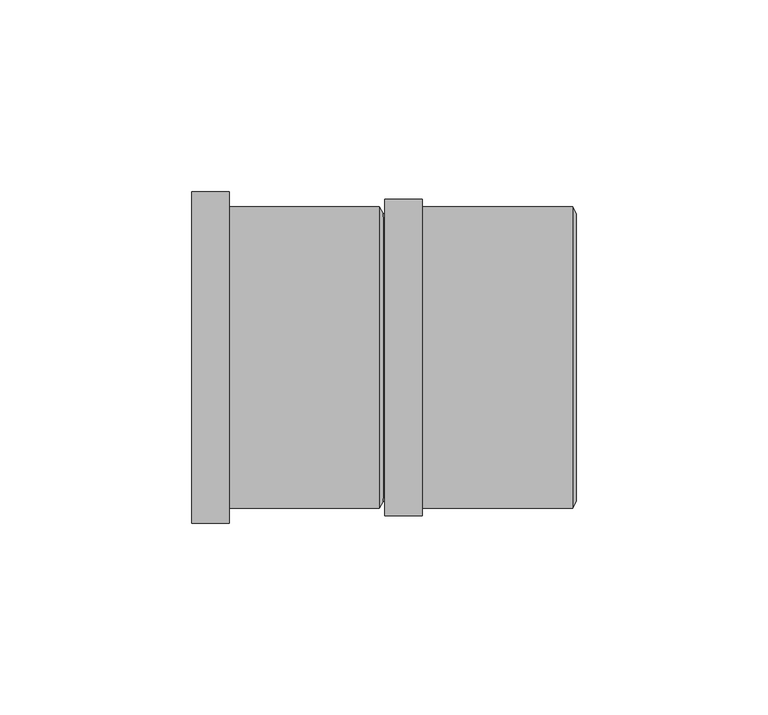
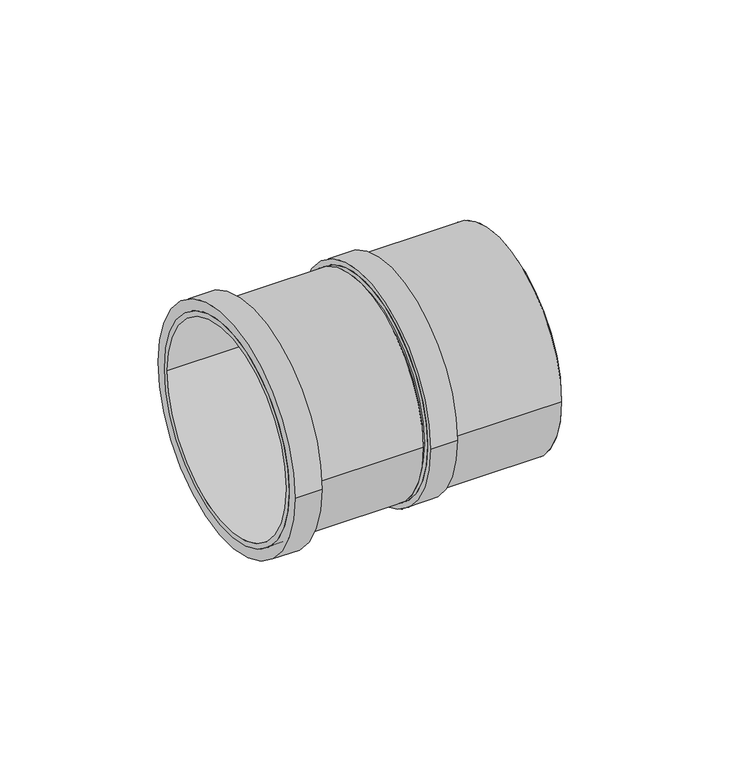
"""IFC4 building model written with IfcOpenShell, lengths in millimetres: pipe fitting geometry, Superdrain HTAM-Single socket : Superdrain HTAM-Single socket."""

import ifcopenshell
import ifcopenshell.guid

model = None  # the IFC model being written
_history = None  # IfcOwnerHistory: only IFC2X3 demands one
_inside = {}  # id of a spatial element -> (the spatial element, [elements in it])
_under = {}  # id of a project, library or spatial element -> (it, [spatial elements below it])
_declared = {}  # id of a project -> (the project, [libraries it declares])
_typed = {}  # id of a type object -> (the type object, [elements of that type])
_made_of = {}  # id of a material, layer set ... -> (it, [elements and type objects made of it])


def new_model(schema):
    """Start an empty IFC model of exactly this schema.

    Asked for "IFC4X3", IfcOpenShell would pick the latest addendum, in which some entities
    have other attributes; the version numbers below select the first issue.
    IFC2X3 requires an IfcOwnerHistory on every rooted entity: one is made here for all.
    """
    global model, _history
    if schema == "IFC4X3":
        model = ifcopenshell.file(schema_version=(4, 3, 0, 0))
    else:
        model = ifcopenshell.file(schema=schema)
    _inside.clear()
    _under.clear()
    _declared.clear()
    _typed.clear()
    _made_of.clear()
    _history = None
    if model.schema == "IFC2X3":
        org = make("IfcOrganization", Name="unknown")
        user = make(
            "IfcPersonAndOrganization",
            ThePerson=make("IfcPerson", FamilyName="unknown"),
            TheOrganization=org,
        )
        app = make(
            "IfcApplication",
            ApplicationDeveloper=org,
            Version="unknown",
            ApplicationFullName="unknown",
            ApplicationIdentifier="unknown",
        )
        _history = make(
            "IfcOwnerHistory",
            OwningUser=user,
            OwningApplication=app,
            ChangeAction="ADDED",
            CreationDate=0,
        )
    return model


def make(cls, **values):
    """One entity of the class cls with the attributes given. An attribute that is None is left unset."""
    return model.create_entity(
        cls, **{name: value for name, value in values.items() if value is not None}
    )


def rooted(cls, **values):
    """An entity with a GlobalId (a new one), such as an element, a storey or a relation."""
    return make(cls, GlobalId=ifcopenshell.guid.new(), OwnerHistory=_history, **values)


def si_unit(unit_type, name, prefix=None):
    """IfcSIUnit, for example si_unit("LENGTHUNIT", "METRE", prefix="MILLI")."""
    return make("IfcSIUnit", UnitType=unit_type, Prefix=prefix, Name=name)


def assignment(units):
    """IfcUnitAssignment: the units of a project."""
    return None if units is None else make("IfcUnitAssignment", Units=units)


def point(xyz):
    """IfcCartesianPoint."""
    return None if xyz is None else make("IfcCartesianPoint", Coordinates=xyz)


def direction(xyz):
    """IfcDirection."""
    return None if xyz is None else make("IfcDirection", DirectionRatios=xyz)


def frame(location, z_axis=None, x_axis=None):
    """IfcAxis2Placement3D, a coordinate frame: its origin and axes. An axis left out is left unset."""
    return make(
        "IfcAxis2Placement3D",
        Location=point(location),
        Axis=direction(z_axis),
        RefDirection=direction(x_axis),
    )


def frame_2d(location, x_axis=None):
    """IfcAxis2Placement2D, a coordinate frame in the plane: its origin and x axis."""
    return make(
        "IfcAxis2Placement2D", Location=point(location), RefDirection=direction(x_axis)
    )


def origin():
    """The frame at (0, 0, 0) with its axes left unset."""
    return frame((0.0, 0.0, 0.0))


def origin_2d():
    """The frame at (0, 0) in the plane with its x axis left unset."""
    return frame_2d((0.0, 0.0))


def place(relative_to, where):
    """IfcLocalPlacement: puts the frame where relative to a parent placement (None: the world)."""
    return make(
        "IfcLocalPlacement", PlacementRelTo=relative_to, RelativePlacement=where
    )


def context(
    kind, dimensions, precision=None, world=None, true_north=None, identifier=None
):
    """IfcGeometricRepresentationContext, for example the 3D "Model" context."""
    return make(
        "IfcGeometricRepresentationContext",
        ContextIdentifier=identifier,
        ContextType=kind,
        CoordinateSpaceDimension=dimensions,
        Precision=precision,
        WorldCoordinateSystem=world,
        TrueNorth=true_north,
    )


def project(units=None, contexts=None):
    """IfcProject with its units and contexts."""
    return rooted(
        "IfcProject",
        Name="project",
        RepresentationContexts=contexts,
        UnitsInContext=assignment(units),
    )


def spatial(cls, under=None, at=None, **own):
    """A site, building, storey or space (cls), placed at a placement, below another one or the project."""
    s = rooted(cls, ObjectPlacement=at, **own)
    if under is not None:
        _under.setdefault(under.id(), (under, []))[1].append(s)
    return s


def polyline(points):
    """IfcPolyline through the points."""
    return make("IfcPolyline", Points=[point(p) for p in points])


def circle_curve(where, radius):
    """IfcCircle in the frame where."""
    return make("IfcCircle", Position=where, Radius=radius)


def trimmed(basis, trim1, trim2, sense, master):
    """IfcTrimmedCurve: the piece of a basis curve between two trims."""
    return make(
        "IfcTrimmedCurve",
        BasisCurve=basis,
        Trim1=trim1,
        Trim2=trim2,
        SenseAgreement=sense,
        MasterRepresentation=master,
    )


def segment(curve, same_sense, transition):
    """IfcCompositeCurveSegment."""
    return make(
        "IfcCompositeCurveSegment",
        Transition=transition,
        SameSense=same_sense,
        ParentCurve=curve,
    )


def composite_curve(segments, self_intersect=None):
    """IfcCompositeCurve: segments joined end to end."""
    return make("IfcCompositeCurve", Segments=segments, SelfIntersect=self_intersect)


def outline(outer, holes=None, kind="AREA"):
    """IfcArbitraryClosedProfileDef: a profile drawn as a closed curve; with holes, ...WithVoids."""
    if holes is None:
        return make("IfcArbitraryClosedProfileDef", ProfileType=kind, OuterCurve=outer)
    return make(
        "IfcArbitraryProfileDefWithVoids",
        ProfileType=kind,
        OuterCurve=outer,
        InnerCurves=holes,
    )


def extrude(swept, where, along, depth):
    """IfcExtrudedAreaSolid: the profile swept, set in the frame where, extruded along a direction by depth."""
    return make(
        "IfcExtrudedAreaSolid",
        SweptArea=swept,
        Position=where,
        ExtrudedDirection=direction(along),
        Depth=depth,
    )


def shape(context_of_items, identifier, shape_type, items):
    """IfcShapeRepresentation: the items that make up one representation, for example the "Body"."""
    return make(
        "IfcShapeRepresentation",
        ContextOfItems=context_of_items,
        RepresentationIdentifier=identifier,
        RepresentationType=shape_type,
        Items=items,
    )


def source(mapping_origin, context_of_items, identifier, shape_type, items):
    """IfcRepresentationMap: a shape defined once, which mapped items show again and again."""
    return make(
        "IfcRepresentationMap",
        MappingOrigin=mapping_origin,
        MappedRepresentation=shape(context_of_items, identifier, shape_type, items),
    )


def transform(
    local_origin,
    x_axis=None,
    y_axis=None,
    z_axis=None,
    scale=None,
    scale2=None,
    scale3=None,
    uniform=True,
):
    """IfcCartesianTransformationOperator3D, or its non-uniform kind. x_axis, y_axis, z_axis: its Axis1, 2, 3."""
    if uniform:
        return make(
            "IfcCartesianTransformationOperator3D",
            Axis1=direction(x_axis),
            Axis2=direction(y_axis),
            LocalOrigin=point(local_origin),
            Scale=scale,
            Axis3=direction(z_axis),
        )
    return make(
        "IfcCartesianTransformationOperator3DnonUniform",
        Axis1=direction(x_axis),
        Axis2=direction(y_axis),
        LocalOrigin=point(local_origin),
        Scale=scale,
        Axis3=direction(z_axis),
        Scale2=scale2,
        Scale3=scale3,
    )


def mapped(mapping_source, mapping_target):
    """IfcMappedItem: shows the shape of a source again, moved by a transform."""
    return make(
        "IfcMappedItem", MappingSource=mapping_source, MappingTarget=mapping_target
    )


def made_of(thing, what):
    """Note that an element or type object is made of a material, layer set ...; save() writes the relation."""
    if what is not None:
        _made_of.setdefault(what.id(), (what, []))[1].append(thing)
    return thing


def element(
    cls,
    number,
    at=None,
    inside=None,
    cuts=None,
    type_object=None,
    material=None,
    context=None,
    identifier="Body",
    shape_type=None,
    held_by="IfcProductDefinitionShape",
    body=None,
    shapes=None,
    **own,
):
    """One element of the class cls, such as IfcWall. Its Tag is "e" and its number.

    at: its placement. inside: the storey or other place that contains it. cuts: it is an
    opening in that element (IfcRelVoidsElement). A single representation is given by context,
    identifier, shape_type and body (its items); several are given by shapes. held_by: the class
    of the entity that holds the representations. save() writes the other relations.
    """
    e = rooted(cls, Tag="e%d" % number, ObjectPlacement=at, **own)
    if body is not None:
        shapes = [shape(context, identifier, shape_type, body)]
    if shapes is not None:
        e.Representation = make(held_by, Representations=shapes)
    if inside is not None:
        _inside.setdefault(inside.id(), (inside, []))[1].append(e)
    if cuts is not None:
        rooted(
            "IfcRelVoidsElement", RelatingBuildingElement=cuts, RelatedOpeningElement=e
        )
    if type_object is not None:
        _typed.setdefault(type_object.id(), (type_object, []))[1].append(e)
    return made_of(e, material)


def aggregate(whole, parts):
    """IfcRelAggregates: a whole, such as a stair, and the parts it consists of."""
    return rooted("IfcRelAggregates", RelatingObject=whole, RelatedObjects=parts)


def save(model, path):
    """Write the relations noted so far, then the file.

    IfcRelAggregates (storeys below a building ...), IfcRelContainedInSpatialStructure (elements
    in a storey), IfcRelDefinesByType, IfcRelAssociatesMaterial and IfcRelDeclares: one each for
    every whole, place, type object, material and project.
    """
    for whole, parts in _under.values():
        aggregate(whole, parts)
    for where, things in _inside.values():
        rooted(
            "IfcRelContainedInSpatialStructure",
            RelatedElements=things,
            RelatingStructure=where,
        )
    for kind, things in _typed.values():
        rooted("IfcRelDefinesByType", RelatedObjects=things, RelatingType=kind)
    for what, things in _made_of.values():
        rooted("IfcRelAssociatesMaterial", RelatedObjects=things, RelatingMaterial=what)
    for by, libraries in _declared.values():
        rooted("IfcRelDeclares", RelatingContext=by, RelatedDefinitions=libraries)
    model.write(path)


def plane_surface(at):
    """IfcPlane: the flat surface through the origin of the frame at, square to its z axis."""
    return make("IfcPlane", Position=at)


def revolved_surface(curve, axis_point, axis_direction):
    """IfcSurfaceOfRevolution: the curve turned about the line through axis_point along axis_direction."""
    return make(
        "IfcSurfaceOfRevolution",
        SweptCurve=make("IfcArbitraryOpenProfileDef", ProfileType="CURVE", Curve=curve),
        AxisPosition=make("IfcAxis1Placement", Location=point(axis_point), Axis=direction(axis_direction)),
    )


def advanced_brep(points, edges, surfaces, faces):
    """IfcAdvancedBrep: a solid bounded by faces that lie on surfaces and meet in shared edges.

    An edge is (start, end): straight between two places in points (the first is 0);
    or (start, end, curve); or (start, end, curve, False) where it runs against its curve.
    A face is (place in surfaces, loops), or (place, loops, False) where it looks against
    its surface's normal. A loop lists edges by number (the first is 1), with a minus sign
    where the edge is run from its end to its start. The first loop is the outer one.
    """
    corners = [point(p) for p in points]
    vertices = [make("IfcVertexPoint", VertexGeometry=c) for c in corners]
    made = []
    for start, end, *more in edges:
        made.append(
            make(
                "IfcEdgeCurve",
                EdgeStart=vertices[start],
                EdgeEnd=vertices[end],
                EdgeGeometry=more[0] if more else make("IfcPolyline", Points=[corners[start], corners[end]]),
                SameSense=more[1] if len(more) > 1 else True,
            )
        )
    hull = []
    for where, loops, *sense in faces:
        bounds = []
        for j, loop in enumerate(loops):
            ring = [make("IfcOrientedEdge", EdgeElement=made[abs(k) - 1], Orientation=k > 0) for k in loop]
            bounds.append(
                make(
                    "IfcFaceOuterBound" if j == 0 else "IfcFaceBound",
                    Bound=make("IfcEdgeLoop", EdgeList=ring),
                    Orientation=True,
                )
            )
        hull.append(make("IfcAdvancedFace", Bounds=bounds, FaceSurface=surfaces[where], SameSense=sense[0] if sense else True))
    return make("IfcAdvancedBrep", Outer=make("IfcClosedShell", CfsFaces=hull))


def pipe_fitting_dd2cafb6(model_context):
    return source(origin(), model_context, "Body", "SolidModel", [
        extrude(outline(composite_curve([segment(trimmed(circle_curve(origin_2d(), 39.375), [point((-39.375, 0.0))], [point((39.375, 0.0))], False, "CARTESIAN"), True, "CONTINUOUS"), segment(trimmed(circle_curve(origin_2d(), 39.375), [point((39.375, 0.0))], [point((-39.375, 0.0))], False, "CARTESIAN"), True, "CONTINUOUS")], self_intersect=False), holes=[composite_curve([segment(trimmed(circle_curve(origin_2d(), 37.5), [point((-37.5, 0.0))], [point((37.5, 0.0))], True, "CARTESIAN"), True, "CONTINUOUS"), segment(trimmed(circle_curve(origin_2d(), 37.5), [point((37.5, 0.0))], [point((-37.5, 0.0))], True, "CARTESIAN"), True, "CONTINUOUS")], self_intersect=False)]), frame((-1.0, 0.0, 0.0), z_axis=(1.0, 0.0, 0.0), x_axis=(0.0, 1.0, 0.0)), (0.0, 0.0, 1.0), 49.0),
        extrude(outline(composite_curve([segment(trimmed(circle_curve(origin_2d(), 41.34375), [point((-41.34375, 0.0))], [point((41.34375, 0.0))], False, "CARTESIAN"), True, "CONTINUOUS"), segment(trimmed(circle_curve(origin_2d(), 41.34375), [point((41.34375, 0.0))], [point((-41.34375, 0.0))], False, "CARTESIAN"), True, "CONTINUOUS")], self_intersect=False), holes=[composite_curve([segment(trimmed(circle_curve(origin_2d(), 37.5), [point((-37.5, 0.0))], [point((37.5, 0.0))], True, "CARTESIAN"), True, "CONTINUOUS"), segment(trimmed(circle_curve(origin_2d(), 37.5), [point((37.5, 0.0))], [point((-37.5, 0.0))], True, "CARTESIAN"), True, "CONTINUOUS")], self_intersect=False)]), frame((-1.0, 0.0, 0.0), z_axis=(1.0, 0.0, 0.0), x_axis=(0.0, 1.0, 0.0)), (0.0, 0.0, 1.0), 9.8),
        advanced_brep(
        [(49.0, -37.5, 0.0), (49.0, 37.5, 0.0), (48.0, -39.375, 0.0), (48.0, 39.375, 0.0)],
        [
            (0, 1, circle_curve(frame((49.0, 0.0, 0.0), z_axis=(1.0, 0.0, 0.0), x_axis=(0.0, -1.0, 0.0)), 37.5)),
            (1, 0, circle_curve(frame((49.0, 0.0, 0.0), z_axis=(1.0, 0.0, 0.0), x_axis=(0.0, 1.0, 0.0)), 37.5)),
            (2, 3, circle_curve(frame((48.0, 0.0, 0.0), z_axis=(-1.0, 0.0, 0.0), x_axis=(0.0, 1.0, 0.0)), 39.375)),
            (3, 2, circle_curve(frame((48.0, 0.0, 0.0), z_axis=(-1.0, 0.0, 0.0), x_axis=(0.0, -1.0, 0.0)), 39.375)),
            (3, 1),
            (0, 2),
        ],
        [
            plane_surface(frame((49.0, 0.0, 0.0), z_axis=(1.0, 0.0, 0.0), x_axis=(0.0, 0.0, -1.0))),
            plane_surface(frame((48.0, 0.0, 0.0), z_axis=(-1.0, 0.0, 0.0), x_axis=(0.0, 0.0, -1.0))),
            revolved_surface(polyline([(49.0, -37.5, 0.0), (48.0, -39.375, 0.0)]), (69.0, 0.0, 0.0), (-1.0, 0.0, 0.0)),
            revolved_surface(polyline([(49.0, 37.5, 0.0), (48.0, 39.375, 0.0)]), (69.0, 0.0, 0.0), (-1.0, 0.0, 0.0)),
        ],
        [
            (0, [[1, 2]]),
            (1, [[3, 4]]),
            (2, [[-4, 5, -1, 6]]),
            (3, [[-3, -6, -2, -5]]),
        ],
    ),
        extrude(outline(composite_curve([segment(trimmed(circle_curve(origin_2d(), 39.375), [point((-39.375, 0.0))], [point((39.375, 0.0))], False, "CARTESIAN"), True, "CONTINUOUS"), segment(trimmed(circle_curve(origin_2d(), 39.375), [point((39.375, 0.0))], [point((-39.375, 0.0))], False, "CARTESIAN"), True, "CONTINUOUS")], self_intersect=False), holes=[composite_curve([segment(trimmed(circle_curve(origin_2d(), 37.5), [point((-37.5, 0.0))], [point((37.5, 0.0))], True, "CARTESIAN"), True, "CONTINUOUS"), segment(trimmed(circle_curve(origin_2d(), 37.5), [point((37.5, 0.0))], [point((-37.5, 0.0))], True, "CARTESIAN"), True, "CONTINUOUS")], self_intersect=False)]), frame((-51.5, 0.0, 0.0), z_axis=(1.0, 0.0, 0.0), x_axis=(0.0, 1.0, 0.0)), (0.0, 0.0, 1.0), 49.0),
        extrude(outline(composite_curve([segment(trimmed(circle_curve(origin_2d(), 43.3125), [point((-43.3125, 0.0))], [point((43.3125, 0.0))], False, "CARTESIAN"), True, "CONTINUOUS"), segment(trimmed(circle_curve(origin_2d(), 43.3125), [point((43.3125, 0.0))], [point((-43.3125, 0.0))], False, "CARTESIAN"), True, "CONTINUOUS")], self_intersect=False), holes=[composite_curve([segment(trimmed(circle_curve(origin_2d(), 37.5), [point((-37.5, 0.0))], [point((37.5, 0.0))], True, "CARTESIAN"), True, "CONTINUOUS"), segment(trimmed(circle_curve(origin_2d(), 37.5), [point((37.5, 0.0))], [point((-37.5, 0.0))], True, "CARTESIAN"), True, "CONTINUOUS")], self_intersect=False)]), frame((-51.5, 0.0, 0.0), z_axis=(1.0, 0.0, 0.0), x_axis=(0.0, 1.0, 0.0)), (0.0, 0.0, 1.0), 9.8),
        advanced_brep(
        [(-1.5, -37.5, 0.0), (-1.5, 37.5, 0.0), (-2.5, -39.375, 0.0), (-2.5, 39.375, 0.0)],
        [
            (0, 1, circle_curve(frame((-1.5, 0.0, 0.0), z_axis=(1.0, 0.0, 0.0), x_axis=(0.0, -1.0, 0.0)), 37.5)),
            (1, 0, circle_curve(frame((-1.5, 0.0, 0.0), z_axis=(1.0, 0.0, 0.0), x_axis=(0.0, 1.0, 0.0)), 37.5)),
            (2, 3, circle_curve(frame((-2.5, 0.0, 0.0), z_axis=(-1.0, 0.0, 0.0), x_axis=(0.0, 1.0, 0.0)), 39.375)),
            (3, 2, circle_curve(frame((-2.5, 0.0, 0.0), z_axis=(-1.0, 0.0, 0.0), x_axis=(0.0, -1.0, 0.0)), 39.375)),
            (3, 1),
            (0, 2),
        ],
        [
            plane_surface(frame((-1.5, 0.0, 0.0), z_axis=(1.0, 0.0, 0.0), x_axis=(0.0, 0.0, -1.0))),
            plane_surface(frame((-2.5, 0.0, 0.0), z_axis=(-1.0, 0.0, 0.0), x_axis=(0.0, 0.0, -1.0))),
            revolved_surface(polyline([(-1.5, -37.5, 0.0), (-2.5, -39.375, 0.0)]), (18.5, 0.0, 0.0), (-1.0, 0.0, 0.0)),
            revolved_surface(polyline([(-1.5, 37.5, 0.0), (-2.5, 39.375, 0.0)]), (18.5, 0.0, 0.0), (-1.0, 0.0, 0.0)),
        ],
        [
            (0, [[1, 2]]),
            (1, [[3, 4]]),
            (2, [[-4, 5, -1, 6]]),
            (3, [[-3, -6, -2, -5]]),
        ],
    ),
        extrude(outline(composite_curve([segment(trimmed(circle_curve(origin_2d(), 37.5), [point((-37.5, 0.0))], [point((37.5, 0.0))], False, "CARTESIAN"), True, "CONTINUOUS"), segment(trimmed(circle_curve(origin_2d(), 37.5), [point((37.5, 0.0))], [point((-37.5, 0.0))], False, "CARTESIAN"), True, "CONTINUOUS")], self_intersect=False)), frame((-2.5, 0.0, 0.0), z_axis=(1.0, 0.0, 0.0), x_axis=(0.0, 1.0, 0.0)), (0.0, 0.0, 1.0), 50.5),
    ])


if __name__ == "__main__":
    model = new_model("IFC4")
    model_context = context("Model", 3, world=origin())
    ifc_project = project(units=[si_unit("LENGTHUNIT", "METRE", prefix="MILLI")], contexts=[model_context])
    site = spatial("IfcSite", under=ifc_project)
    building = spatial("IfcBuilding", under=site)
    placement = place(None, origin())
    pipe_fitting_shape = pipe_fitting_dd2cafb6(model_context)
    element("IfcPipeFitting", 1, ObjectType="Superdrain HTAM-Single socket : Superdrain HTAM-Single socket", at=placement, inside=building, context=model_context, shape_type="MappedRepresentation", body=[
        mapped(pipe_fitting_shape, transform((0.0, 0.0, 0.0), x_axis=(1.0, 0.0, 0.0), y_axis=(0.0, 1.0, 0.0), z_axis=(0.0, 0.0, 1.0))),
    ])
    save(model, "model.ifc")
